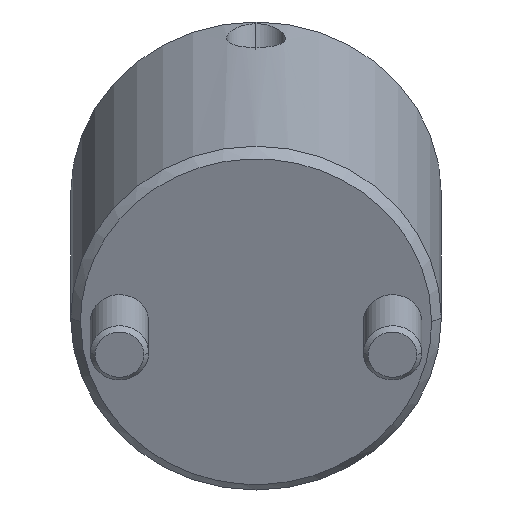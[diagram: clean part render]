
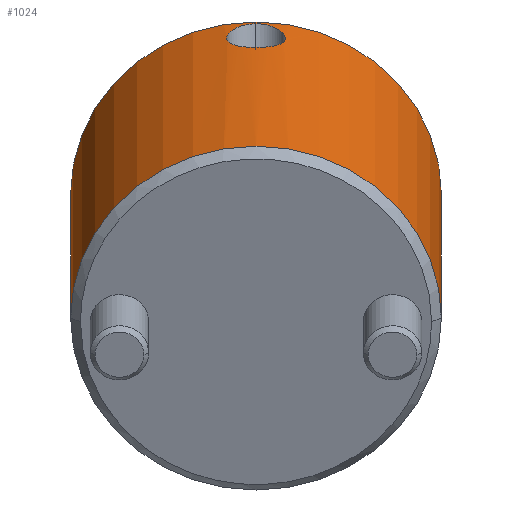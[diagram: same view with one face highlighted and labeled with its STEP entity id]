
A CAD part, front view. The second image highlights one B-rep face of the part: STEP entity #1024.
In plain terms, the highlighted cylindrical face has radius 19 mm (diameter 38 mm), a partial arc.
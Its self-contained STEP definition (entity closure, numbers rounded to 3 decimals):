
#760=CARTESIAN_POINT('Vertex',(0.,19.,1.)) ;
#763=CARTESIAN_POINT('Axis2P3D Location',(0.,0.,1.)) ;
#767=CARTESIAN_POINT('Vertex',(0.,-19.,1.)) ;
#919=CARTESIAN_POINT('Axis2P3D Location',(0.,0.,-1.8)) ;
#924=CARTESIAN_POINT('Line Origine',(0.,19.,-1.8)) ;
#928=CARTESIAN_POINT('Vertex',(0.,19.,35.)) ;
#931=CARTESIAN_POINT('Axis2P3D Location',(0.,0.,35.)) ;
#935=CARTESIAN_POINT('Vertex',(0.,-19.,35.)) ;
#938=CARTESIAN_POINT('Line Origine',(0.,-19.,-1.8)) ;
#950=CARTESIAN_POINT('Control Point',(19.,0.,34.507)) ;
#951=CARTESIAN_POINT('Control Point',(19.,0.078,34.507)) ;
#952=CARTESIAN_POINT('Control Point',(19.,0.156,34.504)) ;
#953=CARTESIAN_POINT('Control Point',(18.999,0.234,34.499)) ;
#954=CARTESIAN_POINT('Control Point',(18.995,0.47,34.472)) ;
#955=CARTESIAN_POINT('Control Point',(18.988,0.703,34.419)) ;
#956=CARTESIAN_POINT('Control Point',(18.981,0.862,34.37)) ;
#957=CARTESIAN_POINT('Control Point',(18.965,1.168,34.251)) ;
#958=CARTESIAN_POINT('Control Point',(18.945,1.453,34.089)) ;
#959=CARTESIAN_POINT('Control Point',(18.934,1.593,33.995)) ;
#960=CARTESIAN_POINT('Control Point',(18.91,1.863,33.786)) ;
#961=CARTESIAN_POINT('Control Point',(18.883,2.106,33.539)) ;
#962=CARTESIAN_POINT('Control Point',(18.87,2.221,33.405)) ;
#963=CARTESIAN_POINT('Control Point',(18.837,2.49,33.046)) ;
#964=CARTESIAN_POINT('Control Point',(18.807,2.702,32.64)) ;
#965=CARTESIAN_POINT('Control Point',(18.792,2.805,32.385)) ;
#966=CARTESIAN_POINT('Control Point',(18.772,2.935,31.94)) ;
#967=CARTESIAN_POINT('Control Point',(18.763,2.994,31.483)) ;
#968=CARTESIAN_POINT('Control Point',(18.761,3.005,31.302)) ;
#969=CARTESIAN_POINT('Control Point',(18.761,3.004,30.851)) ;
#970=CARTESIAN_POINT('Control Point',(18.773,2.929,30.409)) ;
#971=CARTESIAN_POINT('Control Point',(18.784,2.861,30.153)) ;
#972=CARTESIAN_POINT('Control Point',(18.812,2.672,29.665)) ;
#973=CARTESIAN_POINT('Control Point',(18.85,2.389,29.227)) ;
#974=CARTESIAN_POINT('Control Point',(18.87,2.229,29.028)) ;
#975=CARTESIAN_POINT('Control Point',(18.904,1.929,28.729)) ;
#976=CARTESIAN_POINT('Control Point',(18.935,1.584,28.489)) ;
#977=CARTESIAN_POINT('Control Point',(18.946,1.44,28.403)) ;
#978=CARTESIAN_POINT('Control Point',(18.971,1.083,28.223)) ;
#979=CARTESIAN_POINT('Control Point',(18.989,0.697,28.106)) ;
#980=CARTESIAN_POINT('Control Point',(18.996,0.466,28.059)) ;
#981=CARTESIAN_POINT('Control Point',(19.,0.234,28.036)) ;
#982=CARTESIAN_POINT('Control Point',(19.,0.,28.036)) ;
#983=CARTESIAN_POINT('Vertex',(19.,0.,34.507)) ;
#985=CARTESIAN_POINT('Vertex',(19.,0.,28.036)) ;
#989=CARTESIAN_POINT('Control Point',(19.,0.,28.036)) ;
#990=CARTESIAN_POINT('Control Point',(19.,-0.083,28.036)) ;
#991=CARTESIAN_POINT('Control Point',(19.,-0.167,28.039)) ;
#992=CARTESIAN_POINT('Control Point',(18.999,-0.25,28.045)) ;
#993=CARTESIAN_POINT('Control Point',(18.995,-0.498,28.071)) ;
#994=CARTESIAN_POINT('Control Point',(18.987,-0.743,28.124)) ;
#995=CARTESIAN_POINT('Control Point',(18.979,-0.906,28.171)) ;
#996=CARTESIAN_POINT('Control Point',(18.954,-1.38,28.345)) ;
#997=CARTESIAN_POINT('Control Point',(18.917,-1.805,28.617)) ;
#998=CARTESIAN_POINT('Control Point',(18.89,-2.065,28.838)) ;
#999=CARTESIAN_POINT('Control Point',(18.842,-2.459,29.289)) ;
#1000=CARTESIAN_POINT('Control Point',(18.802,-2.738,29.829)) ;
#1001=CARTESIAN_POINT('Control Point',(18.788,-2.834,30.072)) ;
#1002=CARTESIAN_POINT('Control Point',(18.769,-2.952,30.499)) ;
#1003=CARTESIAN_POINT('Control Point',(18.762,-2.999,30.944)) ;
#1004=CARTESIAN_POINT('Control Point',(18.761,-3.007,31.124)) ;
#1005=CARTESIAN_POINT('Control Point',(18.762,-2.996,31.58)) ;
#1006=CARTESIAN_POINT('Control Point',(18.776,-2.91,32.034)) ;
#1007=CARTESIAN_POINT('Control Point',(18.788,-2.833,32.302)) ;
#1008=CARTESIAN_POINT('Control Point',(18.818,-2.629,32.814)) ;
#1009=CARTESIAN_POINT('Control Point',(18.857,-2.334,33.273)) ;
#1010=CARTESIAN_POINT('Control Point',(18.877,-2.167,33.484)) ;
#1011=CARTESIAN_POINT('Control Point',(18.91,-1.864,33.795)) ;
#1012=CARTESIAN_POINT('Control Point',(18.94,-1.519,34.046)) ;
#1013=CARTESIAN_POINT('Control Point',(18.951,-1.378,34.134)) ;
#1014=CARTESIAN_POINT('Control Point',(18.974,-1.034,34.316)) ;
#1015=CARTESIAN_POINT('Control Point',(18.99,-0.66,34.437)) ;
#1016=CARTESIAN_POINT('Control Point',(18.997,-0.44,34.485)) ;
#1017=CARTESIAN_POINT('Control Point',(19.,-0.221,34.507)) ;
#1018=CARTESIAN_POINT('Control Point',(19.,0.,34.507)) ;
#764=DIRECTION('Axis2P3D Direction',(0.,0.,1.)) ;
#920=DIRECTION('Axis2P3D Direction',(0.,-0.,1.)) ;
#921=DIRECTION('Axis2P3D XDirection',(0.,-1.,0.)) ;
#925=DIRECTION('Vector Direction',(0.,0.,1.)) ;
#932=DIRECTION('Axis2P3D Direction',(0.,-0.,1.)) ;
#939=DIRECTION('Vector Direction',(0.,0.,1.)) ;
#765=AXIS2_PLACEMENT_3D('Circle Axis2P3D',#763,#764,$) ;
#922=AXIS2_PLACEMENT_3D('Cylinder Axis2P3D',#919,#920,#921) ;
#933=AXIS2_PLACEMENT_3D('Circle Axis2P3D',#931,#932,$) ;
#944=ORIENTED_EDGE('',*,*,#930,.F.) ;
#945=ORIENTED_EDGE('',*,*,#937,.T.) ;
#946=ORIENTED_EDGE('',*,*,#942,.T.) ;
#947=ORIENTED_EDGE('',*,*,#769,.F.) ;
#1021=ORIENTED_EDGE('',*,*,#987,.T.) ;
#1022=ORIENTED_EDGE('',*,*,#1019,.T.) ;
#1023=FACE_BOUND('',#1020,.T.) ;
#926=VECTOR('Line Direction',#925,1.) ;
#940=VECTOR('Line Direction',#939,1.) ;
#1024=ADVANCED_FACE('MANIFOLD_SOLID_BREP #1114',(#948,#1023),#923,.T.) ;
#949=B_SPLINE_CURVE_WITH_KNOTS('',5,(#950,#951,#952,#953,#954,#955,#956,#957,#958,#959,#960,#961,#962,#963,#964,#965,#966,#967,#968,#969,#970,#971,#972,#973,#974,#975,#976,#977,#978,#979,#980,#981,#982),.UNSPECIFIED.,.F.,.U.,(6,3,3,3,3,3,3,3,3,3,6),(0.,0.58,1.759,2.976,4.225,6.108,7.354,9.198,11.01,12.214,13.887),.UNSPECIFIED.) ;
#988=B_SPLINE_CURVE_WITH_KNOTS('',5,(#989,#990,#991,#992,#993,#994,#995,#996,#997,#998,#999,#1000,#1001,#1002,#1003,#1004,#1005,#1006,#1007,#1008,#1009,#1010,#1011,#1012,#1013,#1014,#1015,#1016,#1017,#1018),.UNSPECIFIED.,.F.,.U.,(6,3,3,3,3,3,3,3,3,6),(0.,0.6,1.803,4.225,6.063,7.301,9.178,11.046,12.251,13.886),.UNSPECIFIED.) ;
#766=CIRCLE('generated circle',#765,19.) ;
#934=CIRCLE('generated circle',#933,19.) ;
#923=CYLINDRICAL_SURFACE('generated cylinder',#922,19.) ;
#769=EDGE_CURVE('',#761,#768,#766,.F.) ;
#930=EDGE_CURVE('',#929,#761,#927,.F.) ;
#937=EDGE_CURVE('',#929,#936,#934,.F.) ;
#942=EDGE_CURVE('',#936,#768,#941,.F.) ;
#987=EDGE_CURVE('',#984,#986,#949,.T.) ;
#1019=EDGE_CURVE('',#986,#984,#988,.T.) ;
#943=EDGE_LOOP('',(#944,#945,#946,#947)) ;
#1020=EDGE_LOOP('',(#1021,#1022)) ;
#948=FACE_OUTER_BOUND('',#943,.T.) ;
#927=LINE('Line',#924,#926) ;
#941=LINE('Line',#938,#940) ;
#761=VERTEX_POINT('',#760) ;
#768=VERTEX_POINT('',#767) ;
#929=VERTEX_POINT('',#928) ;
#936=VERTEX_POINT('',#935) ;
#984=VERTEX_POINT('',#983) ;
#986=VERTEX_POINT('',#985) ;
